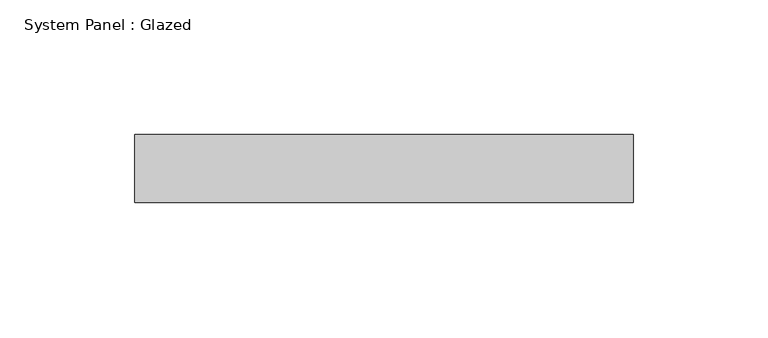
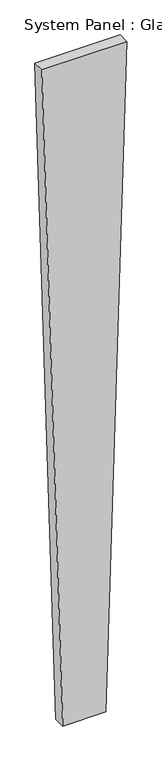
"""IFC4 building model written with IfcOpenShell, lengths in millimetres: plate geometry, System Panel : Glazed."""

from ifc_helpers import new_model, si_unit, frame, origin, place, context, project, spatial, polyline, outline, extrude, source, transform, mapped, element, save


def system_panel_glazed_0558268b(model_context):
    return source(origin(), model_context, "Body", "SweptSolid", [
        extrude(outline(polyline([(0.0, -47.0543798), (0.0, 47.0543798), (1523.3182012, 92.6357122), (1523.3182012, -92.6357122), (0.0, -47.0543798)])), frame((0.0, -44.45, 0.0), z_axis=(0.0, 1.0, 0.0), x_axis=(0.0, 0.0, 1.0)), (0.0, 0.0, 1.0), 25.4),
    ])


if __name__ == "__main__":
    model = new_model("IFC4")
    model_context = context("Model", 3, world=origin())
    ifc_project = project(units=[si_unit("LENGTHUNIT", "METRE", prefix="MILLI")], contexts=[model_context])
    site = spatial("IfcSite", under=ifc_project)
    building = spatial("IfcBuilding", under=site)
    placement = place(None, origin())
    system_panel_glazed_shape = system_panel_glazed_0558268b(model_context)
    element("IfcPlate", 1, ObjectType="System Panel : Glazed", at=placement, inside=building, context=model_context, shape_type="MappedRepresentation", body=[
        mapped(system_panel_glazed_shape, transform((0.0, 0.0, 0.0), x_axis=(1.0, 0.0, 0.0), y_axis=(0.0, 1.0, 0.0), z_axis=(0.0, 0.0, 1.0))),
    ])
    save(model, "model.ifc")
